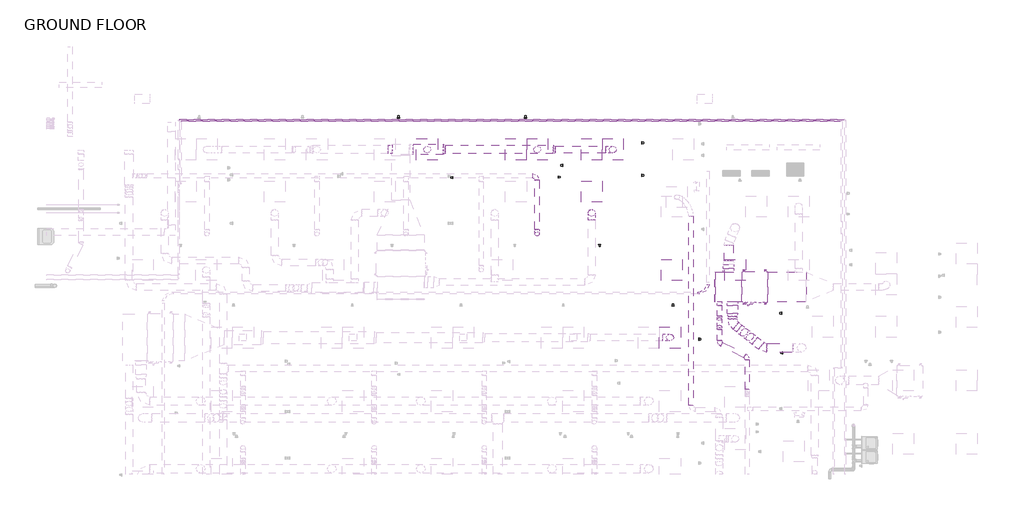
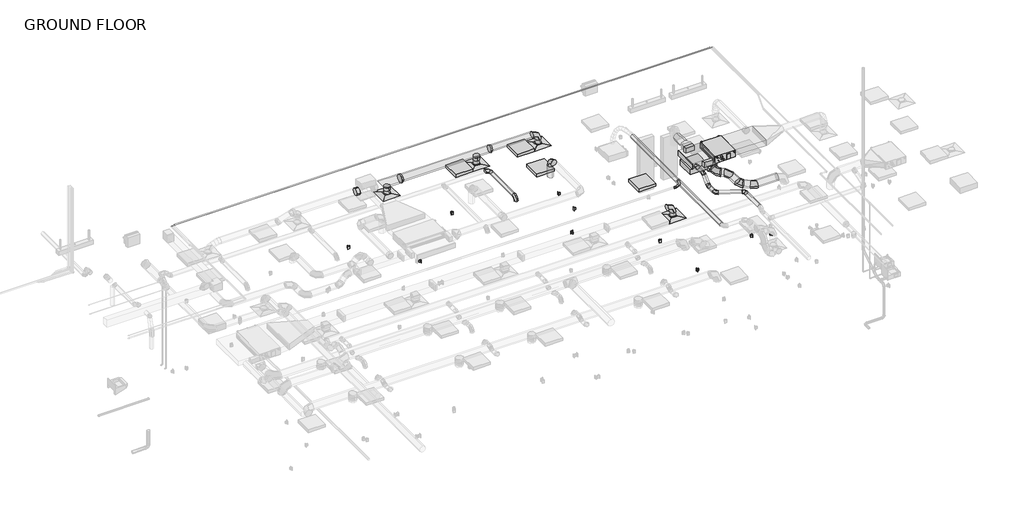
# One storey, part 19 of 22: 26 duct segments, 23 duct fittings, 8 proxies, 5 light fixtures, 4 air terminals, 3 electric appliances, 2 pipe segments, 2 switching devices, 1 cable carrier fitting.
"""IFC4 building model written with IfcOpenShell, lengths in millimetres."""

from ifc_helpers import new_model, si_unit, point, frame, frame_2d, origin, place, context, project, spatial, polyline, circle_curve, trimmed, segment, composite_curve, outline, extrude, transform, mapped, element, save
from components import air_terminal_e9020785, mechanical_equipment_7e022f85, duplex_receptacle_countertop_10251bba, conduit_elbow_plain_end_pvc_standard_9a413171, rectangular_endcap_standard_66f4b2b8, rectangular_takeoff_standard_a8f316fd, rectangular_to_round_transition_angle_45_degree_0bd342e9, round_elbow_1_d_f2406e55, round_elbow_1_d_feab72b3, round_elbow_1_d_a253342a, round_elbow_1_d_c80420c1, round_elbow_1_d_ea3dccb8, round_elbow_1_d_af7a7a65, round_elbow_1_d_21bb6db6, round_takeoff_standard_7fe2b2d5, round_takeoff_standard_98831ccd, round_takeoff_standard_a75a9c41, round_takeoff_standard_ca4b4131, round_transition_angle_45_degree_a6ab1efb, round_transition_angle_45_degree_2c0294df, telephone_outlet_data_plain_18c24199, troffer_corner_insert_2x2_3_lamp_emergency_29e3a813, troffer_corner_insert_2x2_3lamp_e67c7f8f

model = new_model("IFC4")

# Units and contexts
model_context = context("Model", 3, world=origin())
ifc_project = project(units=[si_unit("LENGTHUNIT", "METRE", prefix="MILLI")], contexts=[model_context])

# Site, building, storey
site = spatial("IfcSite", under=ifc_project)
building = spatial("IfcBuilding", under=site)
storey = spatial("IfcBuildingStorey", under=building, Name="GROUND FLOOR", Elevation=30480.0)

# Air terminals
placement = place(None, origin())
air_terminal_shape = air_terminal_e9020785(model_context)
element("IfcAirTerminal", 1, ObjectType="Supply Diffuser - Rectangular Face Round Neck - Hosted : 24\"x24\" Face 8\" Neck - Hosted", at=placement, inside=storey, context=model_context, shape_type="MappedRepresentation", body=[
    mapped(air_terminal_shape, transform((6687.5045393, 6811.3695005, 33223.2), x_axis=(0.0, -1.0, 0.0), y_axis=(-1.0, 0.0, 0.0), z_axis=(0.0, 0.0, -1.0))),
])
element("IfcAirTerminal", 2, ObjectType="Supply Diffuser - Rectangular Face Round Neck - Hosted : 24\"x24\" Face 8\" Neck - Hosted", at=placement, inside=storey, context=model_context, shape_type="MappedRepresentation", body=[
    mapped(air_terminal_shape, transform((1334.4545393, 6811.3695005, 33223.2), x_axis=(0.0, -1.0, 0.0), y_axis=(-1.0, 0.0, 0.0), z_axis=(0.0, 0.0, -1.0))),
])
element("IfcAirTerminal", 3, ObjectType="Supply Diffuser - Rectangular Face Round Neck - Hosted : 24\"x24\" Face 8\" Neck - Hosted", at=placement, inside=storey, context=model_context, shape_type="MappedRepresentation", body=[
    mapped(air_terminal_shape, transform((4506.2795393, 6811.3695005, 33223.2), x_axis=(0.0, -1.0, 0.0), y_axis=(-1.0, 0.0, 0.0), z_axis=(0.0, 0.0, -1.0))),
])
element("IfcAirTerminal", 4, ObjectType="Supply Diffuser - Rectangular Face Round Neck - Hosted : 24\"x24\" Face 8\" Neck - Hosted", at=placement, inside=storey, context=model_context, shape_type="MappedRepresentation", body=[
    mapped(air_terminal_shape, transform((8335.3295393, 1382.1195005, 33223.2), x_axis=(0.0, -1.0, 0.0), y_axis=(-1.0, 0.0, 0.0), z_axis=(0.0, 0.0, -1.0))),
])

# Proxies
mechanical_equipment_shape = mechanical_equipment_7e022f85(model_context)
element("IfcBuildingElementProxy", 5, Name="PEFY-P-NMAU-E_Medium_Static_Ducted : PEFY-P18NMAU-E", ObjectType="PEFY-P-NMAU-E_Medium_Static_Ducted : PEFY-P18NMAU-E", at=placement, inside=storey, context=model_context, shape_type="MappedRepresentation", body=[
    mapped(mechanical_equipment_shape, transform((10724.1343566, 2831.884404, 33832.8), x_axis=(0.0, -1.0, 0.0), y_axis=(1.0, 0.0, 0.0), z_axis=(0.0, 0.0, 1.0))),
])
duplex_receptacle_countertop_shape = duplex_receptacle_countertop_10251bba(model_context)
element("IfcBuildingElementProxy", 6, Name="Duplex Receptacle : Countertop", ObjectType="Duplex Receptacle : Countertop", at=placement, inside=storey, context=model_context, shape_type="MappedRepresentation", body=[
    mapped(duplex_receptacle_countertop_shape, transform((11573.8295393, 941.1895793, 31699.2), x_axis=(0.0, 1.0, 0.0), y_axis=(0.0, 0.0, 1.0), z_axis=(1.0, 0.0, 0.0))),
])
element("IfcBuildingElementProxy", 7, Name="Duplex Receptacle : Standard", ObjectType="Duplex Receptacle : Standard", at=placement, inside=storey, context=model_context, shape_type="MappedRepresentation", body=[
    mapped(duplex_receptacle_countertop_shape, transform((9173.5295393, 1338.7424206, 30937.2), x_axis=(0.0, -1.0, 0.0), y_axis=(0.0, 0.0, 1.0), z_axis=(-1.0, 0.0, 0.0))),
])
element("IfcBuildingElementProxy", 8, Name="Duplex Receptacle : Standard", ObjectType="Duplex Receptacle : Standard", at=placement, inside=storey, context=model_context, shape_type="MappedRepresentation", body=[
    mapped(duplex_receptacle_countertop_shape, transform((512.696222, 7725.7695005, 30937.2), x_axis=(-1.0, 0.0, 0.0), y_axis=(0.0, 0.0, -1.0), z_axis=(0.0, -1.0, 0.0))),
])
element("IfcBuildingElementProxy", 9, Name="Duplex Receptacle : Standard", ObjectType="Duplex Receptacle : Standard", at=placement, inside=storey, context=model_context, shape_type="MappedRepresentation", body=[
    mapped(duplex_receptacle_countertop_shape, transform((4175.0747127, 7725.7695005, 30937.2), x_axis=(-1.0, 0.0, 0.0), y_axis=(0.0, 0.0, -1.0), z_axis=(0.0, -1.0, 0.0))),
])
element("IfcBuildingElementProxy", 10, Name="Duplex Receptacle : Standard", ObjectType="Duplex Receptacle : Standard", at=placement, inside=storey, context=model_context, shape_type="MappedRepresentation", body=[
    mapped(duplex_receptacle_countertop_shape, transform((5115.8795393, 6012.9284472, 30937.2), x_axis=(0.0, -1.0, 0.0), y_axis=(0.0, 0.0, 1.0), z_axis=(-1.0, 0.0, 0.0))),
])
element("IfcBuildingElementProxy", 11, Name="Duplex Receptacle : Standard", ObjectType="Duplex Receptacle : Standard", at=placement, inside=storey, context=model_context, shape_type="MappedRepresentation", body=[
    mapped(duplex_receptacle_countertop_shape, transform((5239.7045393, 6355.0840427, 30937.2), x_axis=(0.0, 1.0, 0.0), y_axis=(0.0, 0.0, 1.0), z_axis=(1.0, 0.0, 0.0))),
])
element("IfcBuildingElementProxy", 12, Name="Duplex Receptacle : Standard", ObjectType="Duplex Receptacle : Standard", at=placement, inside=storey, context=model_context, shape_type="MappedRepresentation", body=[
    mapped(duplex_receptacle_countertop_shape, transform((7525.7045393, 6063.6181651, 30937.2), x_axis=(0.0, -1.0, 0.0), y_axis=(0.0, 0.0, 1.0), z_axis=(-1.0, 0.0, 0.0))),
])

# Cable carrier fitting
conduit_elbow_plain_end_pvc_standard_shape = conduit_elbow_plain_end_pvc_standard_9a413171(model_context)
element("IfcCableCarrierFitting", 13, ObjectType="Conduit Elbow - Plain End - PVC : Standard", at=placement, inside=storey, context=model_context, shape_type="MappedRepresentation", body=[
    mapped(conduit_elbow_plain_end_pvc_standard_shape, transform((9431.6029466, 2674.7111662, 33223.2), x_axis=(1.0, 0.0, 0.0), y_axis=(0.0, 1.0, 0.0), z_axis=(0.0, 0.0, 1.0))),
])

# Duct fittings
rectangular_endcap_standard_shape = rectangular_endcap_standard_66f4b2b8(model_context)
element("IfcDuctFitting", 14, ObjectType="Rectangular Endcap : Standard", at=placement, inside=storey, context=model_context, shape_type="MappedRepresentation", body=[
    mapped(rectangular_endcap_standard_shape, transform((9644.6343566, 2841.896647, 33992.34375), x_axis=(-1.0, 0.0, 0.0), y_axis=(0.0, -1.0, 0.0), z_axis=(0.0, 0.0, 1.0))),
])
rectangular_takeoff_standard_shape = rectangular_takeoff_standard_a8f316fd(model_context)
element("IfcDuctFitting", 15, ObjectType="Rectangular Takeoff : Standard", at=placement, inside=storey, context=model_context, shape_type="MappedRepresentation", body=[
    mapped(rectangular_takeoff_standard_shape, transform((10137.7468891, 2414.065397, 33992.34375), x_axis=(0.0, -1.0, 0.0), y_axis=(-1.0, 0.0, 0.0), z_axis=(0.0, 0.0, -1.0))),
])
element("IfcDuctFitting", 16, ObjectType="Rectangular Takeoff : Standard", at=placement, inside=storey, context=model_context, shape_type="MappedRepresentation", body=[
    mapped(rectangular_takeoff_standard_shape, transform((10025.6343566, 3269.727897, 33992.34375), x_axis=(0.0, 1.0, 0.0), y_axis=(1.0, 0.0, 0.0), z_axis=(0.0, 0.0, -1.0))),
])
rectangular_to_round_transition_angle_45_degree_shape = rectangular_to_round_transition_angle_45_degree_0bd342e9(model_context)
element("IfcDuctFitting", 17, ObjectType="Rectangular to Round Transition - Angle : 45 Degree", at=placement, inside=storey, context=model_context, shape_type="MappedRepresentation", body=[
    mapped(rectangular_to_round_transition_angle_45_degree_shape, transform((10137.7468891, 2083.865397, 33992.34375), x_axis=(0.0, -1.0, 0.0), y_axis=(1.0, 0.0, 0.0), z_axis=(0.0, 0.0, 1.0))),
])
round_elbow_1_d_shape = round_elbow_1_d_f2406e55(model_context)
element("IfcDuctFitting", 18, ObjectType="Round Elbow : 1 D", at=placement, inside=storey, context=model_context, shape_type="MappedRepresentation", body=[
    mapped(round_elbow_1_d_shape, transform((11037.2545393, 1090.0195005, 33629.6), x_axis=(0.7856705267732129, -0.6186451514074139, 0.0), y_axis=(0.6186451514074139, 0.7856705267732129, 0.0), z_axis=(0.0, 0.0, 1.0))),
])
round_elbow_1_d_2_shape = round_elbow_1_d_feab72b3(model_context)
element("IfcDuctFitting", 19, ObjectType="Round Elbow : 1 D", at=placement, inside=storey, context=model_context, shape_type="MappedRepresentation", body=[
    mapped(round_elbow_1_d_2_shape, transform((10137.7468891, 1798.3011879, 33992.34375), x_axis=(0.0, -1.0, 0.0), y_axis=(1.0, 0.0, 0.0), z_axis=(0.0, 0.0, 1.0))),
])
round_elbow_1_d_3_shape = round_elbow_1_d_a253342a(model_context)
element("IfcDuctFitting", 20, ObjectType="Round Elbow : 1 D", at=placement, inside=storey, context=model_context, shape_type="MappedRepresentation", body=[
    mapped(round_elbow_1_d_3_shape, transform((8335.3295393, 1382.1195005, 33604.2), x_axis=(0.0, 0.0, 1.0), y_axis=(-1.0, 0.0, 0.0), z_axis=(0.0, -1.0, 0.0))),
])
element("IfcDuctFitting", 21, ObjectType="Round Elbow : 1 D", at=placement, inside=storey, context=model_context, shape_type="MappedRepresentation", body=[
    mapped(round_elbow_1_d_3_shape, transform((6687.5045393, 6811.3695005, 33629.6), x_axis=(1.0, 0.0, 0.0), y_axis=(0.0, 0.0, -1.0), z_axis=(0.0, 1.0, 0.0))),
])
element("IfcDuctFitting", 22, ObjectType="Round Elbow : 1 D", at=placement, inside=storey, context=model_context, shape_type="MappedRepresentation", body=[
    mapped(round_elbow_1_d_3_shape, transform((6077.9045393, 4982.5695005, 33947.89375), x_axis=(0.0, 0.0, 1.0), y_axis=(0.0, -1.0, 0.0), z_axis=(1.0, 0.0, 0.0))),
])
round_elbow_1_d_4_shape = round_elbow_1_d_c80420c1(model_context)
element("IfcDuctFitting", 23, ObjectType="Round Elbow : 1 D", at=placement, inside=storey, context=model_context, shape_type="MappedRepresentation", body=[
    mapped(round_elbow_1_d_4_shape, transform((4506.2795393, 4372.9695005, 33464.5), x_axis=(0.0, 0.0, 1.0), y_axis=(0.0, 1.0, 0.0), z_axis=(-1.0, 0.0, 0.0))),
])
element("IfcDuctFitting", 24, ObjectType="Round Elbow : 1 D", at=placement, inside=storey, context=model_context, shape_type="MappedRepresentation", body=[
    mapped(round_elbow_1_d_4_shape, transform((4506.2795393, 6049.3695005, 33464.5), x_axis=(0.0, 1.0, 0.0), y_axis=(-1.0, 0.0, 0.0), z_axis=(0.0, 0.0, 1.0))),
])
round_elbow_1_d_5_shape = round_elbow_1_d_ea3dccb8(model_context)
element("IfcDuctFitting", 25, ObjectType="Round Elbow : 1 D", at=placement, inside=storey, context=model_context, shape_type="MappedRepresentation", body=[
    mapped(round_elbow_1_d_5_shape, transform((10413.0302243, 1581.5402242, 33992.34375), x_axis=(0.7856705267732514, -0.6186451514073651, 0.0), y_axis=(0.0, 0.0, -1.0), z_axis=(0.6186451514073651, 0.7856705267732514, 0.0))),
])
element("IfcDuctFitting", 26, ObjectType="Round Elbow : 1 D", at=placement, inside=storey, context=model_context, shape_type="MappedRepresentation", body=[
    mapped(round_elbow_1_d_5_shape, transform((10698.0272974, 1357.130562, 33629.6), x_axis=(0.5555529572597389, -0.4374481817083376, -0.7071067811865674), y_axis=(0.5555529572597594, -0.4374481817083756, 0.7071067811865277), z_axis=(-0.618645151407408, -0.7856705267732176, 0.0))),
])
round_elbow_1_d_6_shape = round_elbow_1_d_af7a7a65(model_context)
element("IfcDuctFitting", 27, ObjectType="Round Elbow : 1 D", at=placement, inside=storey, context=model_context, shape_type="MappedRepresentation", body=[
    mapped(round_elbow_1_d_6_shape, transform((9756.9865694, 1956.865397, 33992.34375), x_axis=(0.0, -1.0, 0.0), y_axis=(0.0, 0.0, -1.0), z_axis=(1.0, 0.0, 0.0))),
])
element("IfcDuctFitting", 28, ObjectType="Round Elbow : 1 D", at=placement, inside=storey, context=model_context, shape_type="MappedRepresentation", body=[
    mapped(round_elbow_1_d_6_shape, transform((9756.9865694, 1663.3685291, 33705.8), x_axis=(0.0, -0.7155316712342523, -0.698580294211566), y_axis=(0.0, -0.698580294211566, 0.7155316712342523), z_axis=(-1.0, 0.0, 0.0))),
])
round_elbow_1_d_7_shape = round_elbow_1_d_21bb6db6(model_context)
element("IfcDuctFitting", 29, ObjectType="Round Elbow : 1 D", at=placement, inside=storey, context=model_context, shape_type="MappedRepresentation", body=[
    mapped(round_elbow_1_d_7_shape, transform((10560.5577502, 823.3195005, 33705.8), x_axis=(0.0, 1.0, 0.0), y_axis=(-1.0, 0.0, 0.0), z_axis=(0.0, 0.0, 1.0))),
])
element("IfcDuctFitting", 30, ObjectType="Round Elbow : 1 D", at=placement, inside=storey, context=model_context, shape_type="MappedRepresentation", body=[
    mapped(round_elbow_1_d_7_shape, transform((9756.9865694, 1223.9608568, 33705.8), x_axis=(0.0, -1.0, 0.0), y_axis=(0.9999999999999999, 0.0, 0.0), z_axis=(0.0, 0.0, 0.9999999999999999))),
])
round_takeoff_standard_shape = round_takeoff_standard_7fe2b2d5(model_context)
element("IfcDuctFitting", 31, ObjectType="Round Takeoff : Standard", at=placement, inside=storey, context=model_context, shape_type="MappedRepresentation", body=[
    mapped(round_takeoff_standard_shape, transform((9756.9865694, 2414.065397, 33992.34375), x_axis=(0.0, -1.0, 0.0), y_axis=(-1.0, 0.0, 0.0), z_axis=(0.0, 0.0, -1.0))),
])
round_takeoff_standard_2_shape = round_takeoff_standard_98831ccd(model_context)
element("IfcDuctFitting", 32, ObjectType="Round Takeoff : Standard", at=placement, inside=storey, context=model_context, shape_type="MappedRepresentation", body=[
    mapped(round_takeoff_standard_2_shape, transform((321.9935718, 6811.3695005, 33680.0490295), x_axis=(-1.0, 0.0, 0.0), y_axis=(0.0, 0.0, 1.0), z_axis=(0.0, 1.0, 0.0))),
])
round_takeoff_standard_3_shape = round_takeoff_standard_a75a9c41(model_context)
element("IfcDuctFitting", 33, ObjectType="Round Takeoff : Standard", at=placement, inside=storey, context=model_context, shape_type="MappedRepresentation", body=[
    mapped(round_takeoff_standard_3_shape, transform((1334.4545393, 6811.3695005, 33477.2), x_axis=(0.0, 0.0, -1.0), y_axis=(1.0, 0.0, 0.0), z_axis=(0.0, -1.0, 0.0))),
])
round_takeoff_standard_4_shape = round_takeoff_standard_ca4b4131(model_context)
element("IfcDuctFitting", 34, ObjectType="Round Takeoff : Standard", at=placement, inside=storey, context=model_context, shape_type="MappedRepresentation", body=[
    mapped(round_takeoff_standard_4_shape, transform((4506.2795393, 6811.3695005, 33502.6), x_axis=(0.0, 0.0, -1.0), y_axis=(1.0, 0.0, 0.0), z_axis=(0.0, -1.0, 0.0))),
])
round_transition_angle_45_degree_shape = round_transition_angle_45_degree_a6ab1efb(model_context)
element("IfcDuctFitting", 35, ObjectType="Round Transition - Angle : 45 Degree", at=placement, inside=storey, context=model_context, shape_type="MappedRepresentation", body=[
    mapped(round_transition_angle_45_degree_shape, transform((1795.1935718, 6811.3695005, 33629.6), x_axis=(1.0, 0.0, 0.0), y_axis=(0.0, 1.0, 0.0), z_axis=(0.0, 0.0, 1.0))),
])
round_transition_angle_45_degree_2_shape = round_transition_angle_45_degree_2c0294df(model_context)
element("IfcDuctFitting", 36, ObjectType="Round Transition - Angle : 45 Degree", at=placement, inside=storey, context=model_context, shape_type="MappedRepresentation", body=[
    mapped(round_transition_angle_45_degree_2_shape, transform((4970.1935718, 6811.3695005, 33629.6), x_axis=(1.0, 0.0, 0.0), y_axis=(0.0, 1.0, 0.0), z_axis=(0.0, 0.0, 1.0))),
])

# Duct segments
element("IfcDuctSegment", 37, ObjectType="Mitered Elbows / Taps", at=placement, inside=storey, context=model_context, shape_type="SweptSolid", body=[
    extrude(outline(polyline([(9985.3468891, 2312.465397), (10290.1468891, 2312.465397), (10290.1468891, 2083.865397), (9985.3468891, 2083.865397), (9985.3468891, 2312.465397)])), frame((0.0, 0.0, 33903.44375), z_axis=(0.0, 0.0, 1.0), x_axis=(1.0, 0.0, 0.0)), (0.0, 0.0, 1.0), 177.8),
])
element("IfcDuctSegment", 38, ObjectType="Mitered Elbows / Taps", at=placement, inside=storey, context=model_context, shape_type="SweptSolid", body=[
    extrude(outline(polyline([(10178.0343566, 3371.327897), (9873.2343566, 3371.327897), (9873.2343566, 3498.327897), (10178.0343566, 3498.327897), (10178.0343566, 3371.327897)])), frame((0.0, 0.0, 33903.44375), z_axis=(0.0, 0.0, 1.0), x_axis=(1.0, 0.0, 0.0)), (0.0, 0.0, 1.0), 177.8),
])
element("IfcDuctSegment", 39, ObjectType="Mitered Elbows / Taps", at=placement, inside=storey, context=model_context, shape_type="SweptSolid", body=[
    extrude(outline(polyline([(11152.7593566, 2414.065397), (11152.7593566, 3269.727897), (12257.9936831, 3269.727897), (12257.9936831, 2414.065397), (11152.7593566, 2414.065397)])), frame((0.0, 0.0, 33875.6625), z_axis=(0.0, 0.0, 1.0), x_axis=(1.0, 0.0, 0.0)), (0.0, 0.0, 1.0), 206.375),
])
element("IfcDuctSegment", 40, ObjectType="Mitered Elbows / Tees", at=placement, inside=storey, context=model_context, shape_type="SweptSolid", body=[
    extrude(outline(polyline([(10406.6343566, 3269.727897), (10406.6343566, 2414.065397), (9644.6343566, 2414.065397), (9644.6343566, 3269.727897), (10406.6343566, 3269.727897)])), frame((0.0, 0.0, 33902.65), z_axis=(0.0, 0.0, 1.0), x_axis=(1.0, 0.0, 0.0)), (0.0, 0.0, 1.0), 179.3875),
])
element("IfcDuctSegment", 41, ObjectType="Taps / Short Radius", at=placement, inside=storey, context=model_context, shape_type="SweptSolid", body=[
    extrude(outline(composite_curve([segment(trimmed(circle_curve(frame_2d((33877.25, 8938.5795393)), 63.5), [point((33877.25, 9002.0795393))], [point((33940.75, 8938.5795393))], False, "CARTESIAN"), True, "CONTINUOUS"), segment(trimmed(circle_curve(frame_2d((33877.25, 8938.5795393)), 63.5), [point((33940.75, 8938.5795393))], [point((33877.25, 8875.0795393))], False, "CARTESIAN"), True, "CONTINUOUS"), segment(trimmed(circle_curve(frame_2d((33877.25, 8938.5795393)), 63.5), [point((33877.25, 8875.0795393))], [point((33813.75, 8938.5795393))], False, "CARTESIAN"), True, "CONTINUOUS"), segment(trimmed(circle_curve(frame_2d((33877.25, 8938.5795393)), 63.5), [point((33813.75, 8938.5795393))], [point((33877.25, 9002.0795393))], False, "CARTESIAN"), True, "CONTINUOUS")], self_intersect=False)), frame((0.0, -564.6850038, 0.0), z_axis=(0.0, 1.0, 0.0), x_axis=(0.0, 0.0, 1.0)), (0.0, 0.0, 1.0), 5461.0),
])
element("IfcDuctSegment", 42, ObjectType="Taps / Short Radius", at=placement, inside=storey, context=model_context, shape_type="SweptSolid", body=[
    extrude(outline(composite_curve([segment(trimmed(circle_curve(frame_2d((8335.3295393, 1382.1195005)), 101.6), [point((8335.3295393, 1483.7195005))], [point((8436.9295393, 1382.1195005))], False, "CARTESIAN"), True, "CONTINUOUS"), segment(trimmed(circle_curve(frame_2d((8335.3295393, 1382.1195005)), 101.6), [point((8436.9295393, 1382.1195005))], [point((8335.3295393, 1280.5195005))], False, "CARTESIAN"), True, "CONTINUOUS"), segment(trimmed(circle_curve(frame_2d((8335.3295393, 1382.1195005)), 101.6), [point((8335.3295393, 1280.5195005))], [point((8233.7295393, 1382.1195005))], False, "CARTESIAN"), True, "CONTINUOUS"), segment(trimmed(circle_curve(frame_2d((8335.3295393, 1382.1195005)), 101.6), [point((8233.7295393, 1382.1195005))], [point((8335.3295393, 1483.7195005))], False, "CARTESIAN"), True, "CONTINUOUS")], self_intersect=False)), frame((0.0, 0.0, 33277.175), z_axis=(0.0, 0.0, 1.0), x_axis=(1.0, 0.0, 0.0)), (0.0, 0.0, 1.0), 123.825),
])
element("IfcDuctSegment", 43, ObjectType="Taps / Short Radius", at=placement, inside=storey, context=model_context, shape_type="SweptSolid", body=[
    extrude(outline(composite_curve([segment(trimmed(circle_curve(frame_2d((6811.3695005, 33629.6)), 152.4), [point((6658.9695005, 33629.6))], [point((6811.3695005, 33782.0))], False, "CARTESIAN"), True, "CONTINUOUS"), segment(trimmed(circle_curve(frame_2d((6811.3695005, 33629.6)), 152.4), [point((6811.3695005, 33782.0))], [point((6963.7695005, 33629.6))], False, "CARTESIAN"), True, "CONTINUOUS"), segment(trimmed(circle_curve(frame_2d((6811.3695005, 33629.6)), 152.4), [point((6963.7695005, 33629.6))], [point((6811.3695005, 33477.2))], False, "CARTESIAN"), True, "CONTINUOUS"), segment(trimmed(circle_curve(frame_2d((6811.3695005, 33629.6)), 152.4), [point((6811.3695005, 33477.2))], [point((6658.9695005, 33629.6))], False, "CARTESIAN"), True, "CONTINUOUS")], self_intersect=False)), frame((931.5935718, 0.0, 0.0), z_axis=(1.0, 0.0, 0.0), x_axis=(0.0, 1.0, 0.0)), (0.0, 0.0, 1.0), 863.6),
])
element("IfcDuctSegment", 44, ObjectType="Taps / Short Radius", at=placement, inside=storey, context=model_context, shape_type="SweptSolid", body=[
    extrude(outline(composite_curve([segment(trimmed(circle_curve(frame_2d((6811.3695005, 33629.6)), 127.0), [point((6684.3695005, 33629.6))], [point((6811.3695005, 33756.6))], False, "CARTESIAN"), True, "CONTINUOUS"), segment(trimmed(circle_curve(frame_2d((6811.3695005, 33629.6)), 127.0), [point((6811.3695005, 33756.6))], [point((6938.3695005, 33629.6))], False, "CARTESIAN"), True, "CONTINUOUS"), segment(trimmed(circle_curve(frame_2d((6811.3695005, 33629.6)), 127.0), [point((6938.3695005, 33629.6))], [point((6811.3695005, 33502.6))], False, "CARTESIAN"), True, "CONTINUOUS"), segment(trimmed(circle_curve(frame_2d((6811.3695005, 33629.6)), 127.0), [point((6811.3695005, 33502.6))], [point((6684.3695005, 33629.6))], False, "CARTESIAN"), True, "CONTINUOUS")], self_intersect=False)), frame((1856.5145963, 0.0, 0.0), z_axis=(1.0, 0.0, 0.0), x_axis=(0.0, 1.0, 0.0)), (0.0, 0.0, 1.0), 3113.6789755),
])
element("IfcDuctSegment", 45, ObjectType="Taps / Short Radius", at=placement, inside=storey, context=model_context, shape_type="SweptSolid", body=[
    extrude(outline(composite_curve([segment(trimmed(circle_curve(frame_2d((6811.3695005, 33629.6)), 101.6), [point((6709.7695005, 33629.6))], [point((6811.3695005, 33731.2))], False, "CARTESIAN"), True, "CONTINUOUS"), segment(trimmed(circle_curve(frame_2d((6811.3695005, 33629.6)), 101.6), [point((6811.3695005, 33731.2))], [point((6912.9695005, 33629.6))], False, "CARTESIAN"), True, "CONTINUOUS"), segment(trimmed(circle_curve(frame_2d((6811.3695005, 33629.6)), 101.6), [point((6912.9695005, 33629.6))], [point((6811.3695005, 33528.0))], False, "CARTESIAN"), True, "CONTINUOUS"), segment(trimmed(circle_curve(frame_2d((6811.3695005, 33629.6)), 101.6), [point((6811.3695005, 33528.0))], [point((6709.7695005, 33629.6))], False, "CARTESIAN"), True, "CONTINUOUS")], self_intersect=False)), frame((5031.5145963, 0.0, 0.0), z_axis=(1.0, 0.0, 0.0), x_axis=(0.0, 1.0, 0.0)), (0.0, 0.0, 1.0), 1452.789943),
])
element("IfcDuctSegment", 46, ObjectType="Taps / Short Radius", at=placement, inside=storey, context=model_context, shape_type="SweptSolid", body=[
    extrude(outline(composite_curve([segment(trimmed(circle_curve(frame_2d((6687.5045393, 6811.3695005)), 101.6), [point((6687.5045393, 6912.9695005))], [point((6789.1045393, 6811.3695005))], False, "CARTESIAN"), True, "CONTINUOUS"), segment(trimmed(circle_curve(frame_2d((6687.5045393, 6811.3695005)), 101.6), [point((6789.1045393, 6811.3695005))], [point((6687.5045393, 6709.7695005))], False, "CARTESIAN"), True, "CONTINUOUS"), segment(trimmed(circle_curve(frame_2d((6687.5045393, 6811.3695005)), 101.6), [point((6687.5045393, 6709.7695005))], [point((6585.9045393, 6811.3695005))], False, "CARTESIAN"), True, "CONTINUOUS"), segment(trimmed(circle_curve(frame_2d((6687.5045393, 6811.3695005)), 101.6), [point((6585.9045393, 6811.3695005))], [point((6687.5045393, 6912.9695005))], False, "CARTESIAN"), True, "CONTINUOUS")], self_intersect=False)), frame((0.0, 0.0, 33277.175), z_axis=(0.0, 0.0, 1.0), x_axis=(1.0, 0.0, 0.0)), (0.0, 0.0, 1.0), 149.225),
])
element("IfcDuctSegment", 47, ObjectType="Taps / Short Radius", at=placement, inside=storey, context=model_context, shape_type="SweptSolid", body=[
    extrude(outline(composite_curve([segment(trimmed(circle_curve(frame_2d((4506.2795393, 6811.3695005)), 101.6), [point((4607.8795393, 6811.3695005))], [point((4506.2795393, 6709.7695005))], False, "CARTESIAN"), True, "CONTINUOUS"), segment(trimmed(circle_curve(frame_2d((4506.2795393, 6811.3695005)), 101.6), [point((4506.2795393, 6709.7695005))], [point((4404.6795393, 6811.3695005))], False, "CARTESIAN"), True, "CONTINUOUS"), segment(trimmed(circle_curve(frame_2d((4506.2795393, 6811.3695005)), 101.6), [point((4404.6795393, 6811.3695005))], [point((4506.2795393, 6912.9695005))], False, "CARTESIAN"), True, "CONTINUOUS"), segment(trimmed(circle_curve(frame_2d((4506.2795393, 6811.3695005)), 101.6), [point((4506.2795393, 6912.9695005))], [point((4607.8795393, 6811.3695005))], False, "CARTESIAN"), True, "CONTINUOUS")], self_intersect=False)), frame((0.0, 0.0, 33277.175), z_axis=(0.0, 0.0, 1.0), x_axis=(1.0, 0.0, 0.0)), (0.0, 0.0, 1.0), 123.825),
])
element("IfcDuctSegment", 48, ObjectType="Taps / Short Radius", at=placement, inside=storey, context=model_context, shape_type="SweptSolid", body=[
    extrude(outline(composite_curve([segment(trimmed(circle_curve(frame_2d((1334.4545393, 6811.3695005)), 101.6), [point((1436.0545393, 6811.3695005))], [point((1334.4545393, 6709.7695005))], False, "CARTESIAN"), True, "CONTINUOUS"), segment(trimmed(circle_curve(frame_2d((1334.4545393, 6811.3695005)), 101.6), [point((1334.4545393, 6709.7695005))], [point((1232.8545393, 6811.3695005))], False, "CARTESIAN"), True, "CONTINUOUS"), segment(trimmed(circle_curve(frame_2d((1334.4545393, 6811.3695005)), 101.6), [point((1232.8545393, 6811.3695005))], [point((1334.4545393, 6912.9695005))], False, "CARTESIAN"), True, "CONTINUOUS"), segment(trimmed(circle_curve(frame_2d((1334.4545393, 6811.3695005)), 101.6), [point((1334.4545393, 6912.9695005))], [point((1436.0545393, 6811.3695005))], False, "CARTESIAN"), True, "CONTINUOUS")], self_intersect=False)), frame((0.0, 0.0, 33277.175), z_axis=(0.0, 0.0, 1.0), x_axis=(1.0, 0.0, 0.0)), (0.0, 0.0, 1.0), 98.425),
])
element("IfcDuctSegment", 49, ObjectType="Taps / Short Radius", at=placement, inside=storey, context=model_context, shape_type="SweptSolid", body=[
    extrude(outline(composite_curve([segment(trimmed(circle_curve(frame_2d((6077.9045393, 4982.5695005)), 101.6), [point((5976.3045393, 4982.5695005))], [point((6077.9045393, 5084.1695005))], False, "CARTESIAN"), True, "CONTINUOUS"), segment(trimmed(circle_curve(frame_2d((6077.9045393, 4982.5695005)), 101.6), [point((6077.9045393, 5084.1695005))], [point((6179.5045393, 4982.5695005))], False, "CARTESIAN"), True, "CONTINUOUS"), segment(trimmed(circle_curve(frame_2d((6077.9045393, 4982.5695005)), 101.6), [point((6179.5045393, 4982.5695005))], [point((6077.9045393, 4880.9695005))], False, "CARTESIAN"), True, "CONTINUOUS"), segment(trimmed(circle_curve(frame_2d((6077.9045393, 4982.5695005)), 101.6), [point((6077.9045393, 4880.9695005))], [point((5976.3045393, 4982.5695005))], False, "CARTESIAN"), True, "CONTINUOUS")], self_intersect=False)), frame((0.0, 0.0, 33324.8), z_axis=(0.0, 0.0, 1.0), x_axis=(1.0, 0.0, 0.0)), (0.0, 0.0, 1.0), 419.89375),
])
element("IfcDuctSegment", 50, ObjectType="Taps / Short Radius", at=placement, inside=storey, context=model_context, shape_type="SweptSolid", body=[
    extrude(outline(composite_curve([segment(trimmed(circle_curve(frame_2d((33992.34375, 9756.9865694)), 63.5), [point((33992.34375, 9693.4865694))], [point((33928.84375, 9756.9865694))], False, "CARTESIAN"), True, "CONTINUOUS"), segment(trimmed(circle_curve(frame_2d((33992.34375, 9756.9865694)), 63.5), [point((33928.84375, 9756.9865694))], [point((33992.34375, 9820.4865694))], False, "CARTESIAN"), True, "CONTINUOUS"), segment(trimmed(circle_curve(frame_2d((33992.34375, 9756.9865694)), 63.5), [point((33992.34375, 9820.4865694))], [point((34055.84375, 9756.9865694))], False, "CARTESIAN"), True, "CONTINUOUS"), segment(trimmed(circle_curve(frame_2d((33992.34375, 9756.9865694)), 63.5), [point((34055.84375, 9756.9865694))], [point((33992.34375, 9693.4865694))], False, "CARTESIAN"), True, "CONTINUOUS")], self_intersect=False)), frame((0.0, 2008.5809665, 0.0), z_axis=(0.0, 1.0, 0.0), x_axis=(0.0, 0.0, 1.0)), (0.0, 0.0, 1.0), 303.8844305),
])
element("IfcDuctSegment", 51, ObjectType="Taps / Short Radius", at=placement, inside=storey, context=model_context, shape_type="SweptSolid", body=[
    extrude(outline(composite_curve([segment(trimmed(circle_curve(frame_2d((0.0, -63.5)), 63.5), [point((-63.5, -63.5))], [point((0.0, 0.0))], False, "CARTESIAN"), True, "CONTINUOUS"), segment(trimmed(circle_curve(frame_2d((0.0, -63.5)), 63.5), [point((0.0, 0.0))], [point((63.5, -63.5))], False, "CARTESIAN"), True, "CONTINUOUS"), segment(trimmed(circle_curve(frame_2d((0.0, -63.5)), 63.5), [point((63.5, -63.5))], [point((0.0, -127.0))], False, "CARTESIAN"), True, "CONTINUOUS"), segment(trimmed(circle_curve(frame_2d((0.0, -63.5)), 63.5), [point((0.0, -127.0))], [point((-63.5, -63.5))], False, "CARTESIAN"), True, "CONTINUOUS")], self_intersect=False)), frame((9756.9865694, 1744.7325056, 33696.4912166), z_axis=(0.0, 0.7155316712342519, 0.6985802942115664), x_axis=(1.0, 0.0, 0.0)), (0.0, 0.0, 1.0), 306.7489826),
])
element("IfcDuctSegment", 52, ObjectType="Taps / Short Radius", at=placement, inside=storey, context=model_context, shape_type="SweptSolid", body=[
    extrude(outline(composite_curve([segment(trimmed(circle_curve(frame_2d((33705.8, 10560.5577502)), 63.5), [point((33705.8, 10624.0577502))], [point((33769.3, 10560.5577502))], False, "CARTESIAN"), True, "CONTINUOUS"), segment(trimmed(circle_curve(frame_2d((33705.8, 10560.5577502)), 63.5), [point((33769.3, 10560.5577502))], [point((33705.8, 10497.0577502))], False, "CARTESIAN"), True, "CONTINUOUS"), segment(trimmed(circle_curve(frame_2d((33705.8, 10560.5577502)), 63.5), [point((33705.8, 10497.0577502))], [point((33642.3, 10560.5577502))], False, "CARTESIAN"), True, "CONTINUOUS"), segment(trimmed(circle_curve(frame_2d((33705.8, 10560.5577502)), 63.5), [point((33642.3, 10560.5577502))], [point((33705.8, 10624.0577502))], False, "CARTESIAN"), True, "CONTINUOUS")], self_intersect=False)), frame((0.0, -104.3657402, 0.0), z_axis=(0.0, 1.0, 0.0), x_axis=(0.0, 0.0, 1.0)), (0.0, 0.0, 1.0), 849.0948661),
])
element("IfcDuctSegment", 53, ObjectType="Taps / Short Radius", at=placement, inside=storey, context=model_context, shape_type="SweptSolid", body=[
    extrude(outline(composite_curve([segment(trimmed(circle_curve(frame_2d((0.0, 63.5)), 63.5), [point((63.4999999, 63.5))], [point((0.0, 0.0))], False, "CARTESIAN"), True, "CONTINUOUS"), segment(trimmed(circle_curve(frame_2d((0.0, 63.5)), 63.5), [point((0.0, 0.0))], [point((-63.5, 63.5))], False, "CARTESIAN"), True, "CONTINUOUS"), segment(trimmed(circle_curve(frame_2d((0.0, 63.5)), 63.5), [point((-63.5, 63.5))], [point((0.0, 127.0))], False, "CARTESIAN"), True, "CONTINUOUS"), segment(trimmed(circle_curve(frame_2d((0.0, 63.5)), 63.5), [point((0.0, 127.0))], [point((63.4999999, 63.5))], False, "CARTESIAN"), True, "CONTINUOUS")], self_intersect=False)), frame((10490.2243678, 858.3860415, 33769.3), z_axis=(-0.8949363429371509, 0.44619383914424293, 0.0), x_axis=(0.44619383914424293, 0.8949363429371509, 0.0)), (0.0, 0.0, 1.0), 740.7280095),
])
element("IfcDuctSegment", 54, ObjectType="Taps / Short Radius", at=placement, inside=storey, context=model_context, shape_type="SweptSolid", body=[
    extrude(outline(composite_curve([segment(trimmed(circle_curve(frame_2d((33705.8, 9756.9865694)), 63.5), [point((33705.8, 9693.4865694))], [point((33642.3, 9756.9865694))], False, "CARTESIAN"), True, "CONTINUOUS"), segment(trimmed(circle_curve(frame_2d((33705.8, 9756.9865694)), 63.5), [point((33642.3, 9756.9865694))], [point((33705.8, 9820.4865694))], False, "CARTESIAN"), True, "CONTINUOUS"), segment(trimmed(circle_curve(frame_2d((33705.8, 9756.9865694)), 63.5), [point((33705.8, 9820.4865694))], [point((33769.3, 9756.9865694))], False, "CARTESIAN"), True, "CONTINUOUS"), segment(trimmed(circle_curve(frame_2d((33705.8, 9756.9865694)), 63.5), [point((33769.3, 9756.9865694))], [point((33705.8, 9693.4865694))], False, "CARTESIAN"), True, "CONTINUOUS")], self_intersect=False)), frame((0.0, 1302.5512314, 0.0), z_axis=(0.0, 1.0, 0.0), x_axis=(0.0, 0.0, 1.0)), (0.0, 0.0, 1.0), 309.1017282),
])
element("IfcDuctSegment", 55, ObjectType="Taps / Short Radius", at=placement, inside=storey, context=model_context, shape_type="SweptSolid", body=[
    extrude(outline(composite_curve([segment(trimmed(circle_curve(frame_2d((33464.5, 4506.2795393)), 63.5), [point((33464.5, 4569.7795393))], [point((33528.0, 4506.2795393))], False, "CARTESIAN"), True, "CONTINUOUS"), segment(trimmed(circle_curve(frame_2d((33464.5, 4506.2795393)), 63.5), [point((33528.0, 4506.2795393))], [point((33464.5, 4442.7795393))], False, "CARTESIAN"), True, "CONTINUOUS"), segment(trimmed(circle_curve(frame_2d((33464.5, 4506.2795393)), 63.5), [point((33464.5, 4442.7795393))], [point((33401.0, 4506.2795393))], False, "CARTESIAN"), True, "CONTINUOUS"), segment(trimmed(circle_curve(frame_2d((33464.5, 4506.2795393)), 63.5), [point((33401.0, 4506.2795393))], [point((33464.5, 4569.7795393))], False, "CARTESIAN"), True, "CONTINUOUS")], self_intersect=False)), frame((0.0, 4499.9695005, 0.0), z_axis=(0.0, 1.0, 0.0), x_axis=(0.0, 0.0, 1.0)), (0.0, 0.0, 1.0), 1422.4),
])
element("IfcDuctSegment", 56, ObjectType="Taps / Short Radius", at=placement, inside=storey, context=model_context, shape_type="SweptSolid", body=[
    extrude(outline(composite_curve([segment(trimmed(circle_curve(frame_2d((4506.2795393, 4372.9695005)), 63.5), [point((4569.7795393, 4372.9695005))], [point((4506.2795393, 4309.4695005))], False, "CARTESIAN"), True, "CONTINUOUS"), segment(trimmed(circle_curve(frame_2d((4506.2795393, 4372.9695005)), 63.5), [point((4506.2795393, 4309.4695005))], [point((4442.7795393, 4372.9695005))], False, "CARTESIAN"), True, "CONTINUOUS"), segment(trimmed(circle_curve(frame_2d((4506.2795393, 4372.9695005)), 63.5), [point((4442.7795393, 4372.9695005))], [point((4506.2795393, 4436.4695005))], False, "CARTESIAN"), True, "CONTINUOUS"), segment(trimmed(circle_curve(frame_2d((4506.2795393, 4372.9695005)), 63.5), [point((4506.2795393, 4436.4695005))], [point((4569.7795393, 4372.9695005))], False, "CARTESIAN"), True, "CONTINUOUS")], self_intersect=False)), frame((0.0, 0.0, 33324.8), z_axis=(0.0, 0.0, 1.0), x_axis=(1.0, 0.0, 0.0)), (0.0, 0.0, 1.0), 12.7),
])
element("IfcDuctSegment", 57, ObjectType="Taps / Short Radius", at=placement, inside=storey, context=model_context, shape_type="SweptSolid", body=[
    extrude(outline(composite_curve([segment(trimmed(circle_curve(frame_2d((33992.34375, 10137.7468891)), 127.0), [point((33992.34375, 10010.7468891))], [point((33865.34375, 10137.7468891))], False, "CARTESIAN"), True, "CONTINUOUS"), segment(trimmed(circle_curve(frame_2d((33992.34375, 10137.7468891)), 127.0), [point((33865.34375, 10137.7468891))], [point((33992.34375, 10264.7468891))], False, "CARTESIAN"), True, "CONTINUOUS"), segment(trimmed(circle_curve(frame_2d((33992.34375, 10137.7468891)), 127.0), [point((33992.34375, 10264.7468891))], [point((34119.34375, 10137.7468891))], False, "CARTESIAN"), True, "CONTINUOUS"), segment(trimmed(circle_curve(frame_2d((33992.34375, 10137.7468891)), 127.0), [point((34119.34375, 10137.7468891))], [point((33992.34375, 10010.7468891))], False, "CARTESIAN"), True, "CONTINUOUS")], self_intersect=False)), frame((0.0, 1921.5896762, 0.0), z_axis=(0.0, 1.0, 0.0), x_axis=(0.0, 0.0, 1.0)), (0.0, 0.0, 1.0), 70.2941841),
])
element("IfcDuctSegment", 58, ObjectType="Taps / Short Radius", at=placement, inside=storey, context=model_context, shape_type="SweptSolid", body=[
    extrude(outline(composite_curve([segment(trimmed(circle_curve(frame_2d((33992.34375, 10025.6343566)), 127.0), [point((33992.34375, 10152.6343566))], [point((34119.34375, 10025.6343566))], False, "CARTESIAN"), True, "CONTINUOUS"), segment(trimmed(circle_curve(frame_2d((33992.34375, 10025.6343566)), 127.0), [point((34119.34375, 10025.6343566))], [point((33992.34375, 9898.6343566))], False, "CARTESIAN"), True, "CONTINUOUS"), segment(trimmed(circle_curve(frame_2d((33992.34375, 10025.6343566)), 127.0), [point((33992.34375, 9898.6343566))], [point((33865.34375, 10025.6343566))], False, "CARTESIAN"), True, "CONTINUOUS"), segment(trimmed(circle_curve(frame_2d((33992.34375, 10025.6343566)), 127.0), [point((33865.34375, 10025.6343566))], [point((33992.34375, 10152.6343566))], False, "CARTESIAN"), True, "CONTINUOUS")], self_intersect=False)), frame((0.0, 3590.3094337, 0.0), z_axis=(0.0, 1.0, 0.0), x_axis=(0.0, 0.0, 1.0)), (0.0, 0.0, 1.0), 466.7478413),
])
element("IfcDuctSegment", 59, ObjectType="Taps / Short Radius", at=placement, inside=storey, context=model_context, shape_type="SweptSolid", body=[
    extrude(outline(composite_curve([segment(trimmed(circle_curve(frame_2d((1090.0195005, 33629.6)), 127.0), [point((1217.0195005, 33629.6))], [point((1090.0195005, 33502.6))], False, "CARTESIAN"), True, "CONTINUOUS"), segment(trimmed(circle_curve(frame_2d((1090.0195005, 33629.6)), 127.0), [point((1090.0195005, 33502.6))], [point((963.0195005, 33629.6))], False, "CARTESIAN"), True, "CONTINUOUS"), segment(trimmed(circle_curve(frame_2d((1090.0195005, 33629.6)), 127.0), [point((963.0195005, 33629.6))], [point((1090.0195005, 33756.6))], False, "CARTESIAN"), True, "CONTINUOUS"), segment(trimmed(circle_curve(frame_2d((1090.0195005, 33629.6)), 127.0), [point((1090.0195005, 33756.6))], [point((1217.0195005, 33629.6))], False, "CARTESIAN"), True, "CONTINUOUS")], self_intersect=False)), frame((11125.252782, 0.0, 0.0), z_axis=(1.0, 0.0, 0.0), x_axis=(0.0, 1.0, 0.0)), (0.0, 0.0, 1.0), 750.2017573),
])
element("IfcDuctSegment", 60, ObjectType="Taps / Short Radius", at=placement, inside=storey, context=model_context, shape_type="SweptSolid", body=[
    extrude(outline(composite_curve([segment(trimmed(circle_curve(frame_2d((0.0, -127.0)), 127.0), [point((-127.0, -127.0))], [point((0.0, 0.0))], False, "CARTESIAN"), True, "CONTINUOUS"), segment(trimmed(circle_curve(frame_2d((0.0, -127.0)), 127.0), [point((0.0, 0.0))], [point((127.0, -127.0))], False, "CARTESIAN"), True, "CONTINUOUS"), segment(trimmed(circle_curve(frame_2d((0.0, -127.0)), 127.0), [point((127.0, -127.0))], [point((0.0, -254.0))], False, "CARTESIAN"), True, "CONTINUOUS"), segment(trimmed(circle_curve(frame_2d((0.0, -127.0)), 127.0), [point((0.0, -254.0))], [point((-127.0, -127.0))], False, "CARTESIAN"), True, "CONTINUOUS")], self_intersect=False)), frame((10968.1169136, 1144.4591867, 33502.6), z_axis=(-0.7856705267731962, 0.6186451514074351, 0.0), x_axis=(0.6186451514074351, 0.7856705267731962, 0.0)), (0.0, 0.0, 1.0), 238.5593213),
])
element("IfcDuctSegment", 61, ObjectType="Taps / Short Radius", at=placement, inside=storey, context=model_context, shape_type="SweptSolid", body=[
    extrude(outline(composite_curve([segment(trimmed(circle_curve(frame_2d((0.0, -127.0)), 127.0), [point((-127.0, -127.0))], [point((0.0, 0.0))], False, "CARTESIAN"), True, "CONTINUOUS"), segment(trimmed(circle_curve(frame_2d((0.0, -127.0)), 127.0), [point((0.0, 0.0))], [point((127.0, -127.0))], False, "CARTESIAN"), True, "CONTINUOUS"), segment(trimmed(circle_curve(frame_2d((0.0, -127.0)), 127.0), [point((127.0, -127.0))], [point((0.0, -254.0))], False, "CARTESIAN"), True, "CONTINUOUS"), segment(trimmed(circle_curve(frame_2d((0.0, -127.0)), 127.0), [point((0.0, -254.0))], [point((-127.0, -127.0))], False, "CARTESIAN"), True, "CONTINUOUS")], self_intersect=False)), frame((10330.3696358, 1646.628032, 33865.34375), z_axis=(-0.7856705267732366, 0.6186451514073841, 0.0), x_axis=(0.6186451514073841, 0.7856705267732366, 0.0)), (0.0, 0.0, 1.0), 121.8813891),
])
element("IfcDuctSegment", 62, ObjectType="Taps / Short Radius", at=placement, inside=storey, context=model_context, shape_type="SweptSolid", body=[
    extrude(outline(composite_curve([segment(trimmed(circle_curve(frame_2d((0.0, -127.0)), 127.0), [point((94.4915392, -42.1451298))], [point((84.8548703, -221.4915393))], False, "CARTESIAN"), True, "CONTINUOUS"), segment(trimmed(circle_curve(frame_2d((0.0, -127.0)), 127.0), [point((84.8548703, -221.4915393))], [point((-94.4915392, -211.8548703))], False, "CARTESIAN"), True, "CONTINUOUS"), segment(trimmed(circle_curve(frame_2d((0.0, -127.0)), 127.0), [point((-94.4915392, -211.8548703))], [point((-84.8548703, -32.5084608))], False, "CARTESIAN"), True, "CONTINUOUS"), segment(trimmed(circle_curve(frame_2d((0.0, -127.0)), 127.0), [point((-84.8548703, -32.5084608))], [point((94.4915392, -42.1451298))], False, "CARTESIAN"), True, "CONTINUOUS")], self_intersect=False)), frame((10639.5774348, 1511.157715, 33637.1792694), z_axis=(-0.5555529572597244, 0.43744818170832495, 0.7071067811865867), x_axis=(0.8314811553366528, 0.2922803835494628, 0.4724523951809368)), (0.0, 0.0, 1.0), 302.5766412),
])

# Electric appliances
telephone_outlet_data_plain_shape = telephone_outlet_data_plain_18c24199(model_context)
element("IfcElectricAppliance", 63, ObjectType="Telephone Outlet - Data : Plain", at=placement, inside=storey, context=model_context, shape_type="MappedRepresentation", body=[
    mapped(telephone_outlet_data_plain_shape, transform((2067.8795393, 6879.3730328, 30079.95), x_axis=(0.0, 1.0, 0.0), y_axis=(0.0, 0.0, 1.0), z_axis=(1.0, 0.0, 0.0))),
])
element("IfcElectricAppliance", 64, ObjectType="Telephone Outlet - Data : Plain", at=placement, inside=storey, context=model_context, shape_type="MappedRepresentation", body=[
    mapped(telephone_outlet_data_plain_shape, transform((7525.7045393, 6125.1971789, 30079.95), x_axis=(0.0, -1.0, 0.0), y_axis=(0.0, 0.0, 1.0), z_axis=(-1.0, 0.0, 0.0))),
])
element("IfcElectricAppliance", 65, ObjectType="Telephone Outlet - Data : Plain", at=placement, inside=storey, context=model_context, shape_type="MappedRepresentation", body=[
    mapped(telephone_outlet_data_plain_shape, transform((11554.7795393, 2967.4523574, 30079.95), x_axis=(0.0, 1.0, 0.0), y_axis=(0.0, 0.0, 1.0), z_axis=(1.0, 0.0, 0.0))),
])

# Light fixtures
troffer_corner_insert_2x2_3_lamp_emergency_shape = troffer_corner_insert_2x2_3_lamp_emergency_29e3a813(model_context)
element("IfcLightFixture", 66, ObjectType="Troffer Corner Insert : 2x2 3 Lamp Emergency", at=placement, inside=storey, context=model_context, shape_type="MappedRepresentation", body=[
    mapped(troffer_corner_insert_2x2_3_lamp_emergency_shape, transform((10211.7545393, 3334.7445005, 30784.8), x_axis=(1.0, 0.0, 0.0), y_axis=(0.0, 1.0, 0.0), z_axis=(0.0, 0.0, 1.0))),
])
troffer_corner_insert_2x2_3lamp_shape = troffer_corner_insert_2x2_3lamp_e67c7f8f(model_context)
element("IfcLightFixture", 67, ObjectType="Troffer Corner Insert : 2x2 3Lamp", at=placement, inside=storey, context=model_context, shape_type="MappedRepresentation", body=[
    mapped(troffer_corner_insert_2x2_3lamp_shape, transform((3896.6795393, 6811.3695005, 30784.8), x_axis=(1.0, 0.0, 0.0), y_axis=(0.0, 1.0, 0.0), z_axis=(0.0, 0.0, 1.0))),
])
element("IfcLightFixture", 68, ObjectType="Troffer Corner Insert : 2x2 3Lamp", at=placement, inside=storey, context=model_context, shape_type="MappedRepresentation", body=[
    mapped(troffer_corner_insert_2x2_3lamp_shape, transform((6077.9045393, 6811.3695005, 30784.8), x_axis=(1.0, 0.0, 0.0), y_axis=(0.0, 1.0, 0.0), z_axis=(0.0, 0.0, 1.0))),
])
element("IfcLightFixture", 69, ObjectType="Troffer Corner Insert : 2x2 3Lamp", at=placement, inside=storey, context=model_context, shape_type="MappedRepresentation", body=[
    mapped(troffer_corner_insert_2x2_3lamp_shape, transform((6077.9045393, 5592.1695005, 30784.8), x_axis=(1.0, 0.0, 0.0), y_axis=(0.0, 1.0, 0.0), z_axis=(0.0, 0.0, 1.0))),
])
element("IfcLightFixture", 70, ObjectType="Troffer Corner Insert : 2x2 3Lamp", at=placement, inside=storey, context=model_context, shape_type="MappedRepresentation", body=[
    mapped(troffer_corner_insert_2x2_3lamp_shape, transform((8382.9545393, 3334.7445005, 30784.8), x_axis=(1.0, 0.0, 0.0), y_axis=(0.0, 1.0, 0.0), z_axis=(0.0, 0.0, 1.0))),
])

# Pipe segments
element("IfcPipeSegment", 71, ObjectType="Copper Tubing", at=placement, inside=storey, context=model_context, shape_type="SweptSolid", body=[
    extrude(outline(composite_curve([segment(trimmed(circle_curve(frame_2d((7665.0593518, 33978.2831664)), 14.2875), [point((7650.7718518, 33978.2831664))], [point((7665.0593518, 33992.5706664))], False, "CARTESIAN"), True, "CONTINUOUS"), segment(trimmed(circle_curve(frame_2d((7665.0593518, 33978.2831664)), 14.2875), [point((7665.0593518, 33992.5706664))], [point((7679.3468518, 33978.2831664))], False, "CARTESIAN"), True, "CONTINUOUS"), segment(trimmed(circle_curve(frame_2d((7665.0593518, 33978.2831664)), 14.2875), [point((7679.3468518, 33978.2831664))], [point((7665.0593518, 33963.9956664))], False, "CARTESIAN"), True, "CONTINUOUS"), segment(trimmed(circle_curve(frame_2d((7665.0593518, 33978.2831664)), 14.2875), [point((7665.0593518, 33963.9956664))], [point((7650.7718518, 33978.2831664))], False, "CARTESIAN"), True, "CONTINUOUS")], self_intersect=False)), frame((-5798.1829607, 0.0, 0.0), z_axis=(1.0, 0.0, 0.0), x_axis=(0.0, 1.0, 0.0)), (0.0, 0.0, 1.0), 19161.1023784),
])
element("IfcPipeSegment", 72, ObjectType="Copper Tubing", at=placement, inside=storey, context=model_context, shape_type="SweptSolid", body=[
    extrude(outline(composite_curve([segment(trimmed(circle_curve(frame_2d((7628.1810166, 34023.2999997)), 14.2875), [point((7613.8935166, 34023.2999997))], [point((7628.1810166, 34037.5874997))], False, "CARTESIAN"), True, "CONTINUOUS"), segment(trimmed(circle_curve(frame_2d((7628.1810166, 34023.2999997)), 14.2875), [point((7628.1810166, 34037.5874997))], [point((7642.4685166, 34023.2999997))], False, "CARTESIAN"), True, "CONTINUOUS"), segment(trimmed(circle_curve(frame_2d((7628.1810166, 34023.2999997)), 14.2875), [point((7642.4685166, 34023.2999997))], [point((7628.1810166, 34009.0124997))], False, "CARTESIAN"), True, "CONTINUOUS"), segment(trimmed(circle_curve(frame_2d((7628.1810166, 34023.2999997)), 14.2875), [point((7628.1810166, 34009.0124997))], [point((7613.8935166, 34023.2999997))], False, "CARTESIAN"), True, "CONTINUOUS")], self_intersect=False)), frame((-5739.8068281, 0.0, 0.0), z_axis=(1.0, 0.0, 0.0), x_axis=(0.0, 1.0, 0.0)), (0.0, 0.0, 1.0), 19008.7205322),
])

# Switching devices
element("IfcSwitchingDevice", 73, ObjectType="Lighting Switches - Occupancy Sensor : Occupancy Sensor", at=placement, inside=storey, context=model_context, shape_type="MappedRepresentation", body=[
    mapped(duplex_receptacle_countertop_shape, transform((8421.1520659, 2296.5195005, 31699.2), x_axis=(1.0, 0.0, 0.0), y_axis=(0.0, 0.0, 1.0), z_axis=(0.0, -1.0, 0.0))),
])
element("IfcSwitchingDevice", 74, ObjectType="Lighting Switches - Occupancy Sensor : Occupancy Sensor", at=placement, inside=storey, context=model_context, shape_type="MappedRepresentation", body=[
    mapped(duplex_receptacle_countertop_shape, transform((6308.6768191, 4068.1695005, 31699.2), x_axis=(-1.0, 0.0, 0.0), y_axis=(0.0, 0.0, 1.0), z_axis=(0.0, 1.0, 0.0))),
])

save(model, "model.ifc")
